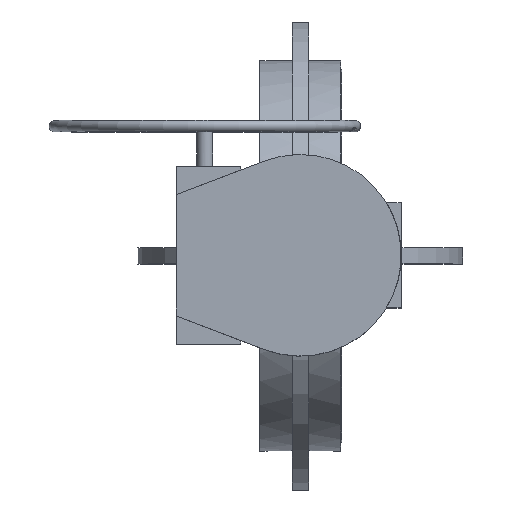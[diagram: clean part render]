
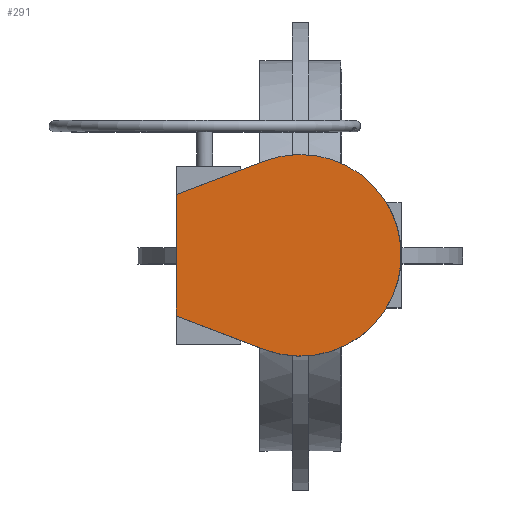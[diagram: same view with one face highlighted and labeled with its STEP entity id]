
A CAD part, top view. The second image highlights one B-rep face of the part: STEP entity #291.
In plain terms, the highlighted planar face has unit normal (0, 0, 1).
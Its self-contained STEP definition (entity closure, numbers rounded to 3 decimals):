
#291=ADVANCED_FACE('',(#6860),#6862,.T.);
#6860=FACE_BOUND('',#6861,.T.);
#6861=EDGE_LOOP('',(#12051,#12052,#12053,#12054));
#6862=PLANE('',#6863);
#6863=AXIS2_PLACEMENT_3D('',#6864,#6865,#6866);
#6864=CARTESIAN_POINT('',(0.,0.,497.));
#6865=DIRECTION('',(0.,0.,1.));
#6866=DIRECTION('',(0.,1.,0.));
#12051=ORIENTED_EDGE('',*,*,#16110,.T.);
#12052=ORIENTED_EDGE('',*,*,#16106,.T.);
#12053=ORIENTED_EDGE('',*,*,#16099,.T.);
#12054=ORIENTED_EDGE('',*,*,#16094,.T.);
#16094=EDGE_CURVE('',#18183,#18181,#18184,.T.);
#16099=EDGE_CURVE('',#18191,#18183,#18192,.T.);
#16106=EDGE_CURVE('',#18204,#18191,#18205,.T.);
#16110=EDGE_CURVE('',#18181,#18204,#18210,.T.);
#18181=VERTEX_POINT('',#21704);
#18183=VERTEX_POINT('',#21708);
#18184=LINE('',#21709,#21710);
#18191=VERTEX_POINT('',#21726);
#18192=LINE('',#21727,#21728);
#18204=VERTEX_POINT('',#21753);
#18205=LINE('',#21754,#21755);
#18210=CIRCLE('',#21767,124.5);
#21704=CARTESIAN_POINT('',(-44.091,-116.431,497.));
#21708=CARTESIAN_POINT('',(-153.5,-75.,497.));
#21709=CARTESIAN_POINT('',(-153.5,-75.,497.));
#21710=VECTOR('',#21711,1.);
#21711=DIRECTION('',(0.935,-0.354,0.));
#21726=CARTESIAN_POINT('',(-153.5,75.,497.));
#21727=CARTESIAN_POINT('',(-153.5,75.,497.));
#21728=VECTOR('',#21729,1.);
#21729=DIRECTION('',(0.,-1.,0.));
#21753=CARTESIAN_POINT('',(-44.091,116.431,497.));
#21754=CARTESIAN_POINT('',(-44.091,116.431,497.));
#21755=VECTOR('',#21756,1.);
#21756=DIRECTION('',(-0.935,-0.354,0.));
#21767=AXIS2_PLACEMENT_3D('',#21768,#21769,#21770);
#21768=CARTESIAN_POINT('',(0.,0.,497.));
#21769=DIRECTION('',(0.,0.,1.));
#21770=DIRECTION('',(-0.354,-0.935,0.));
